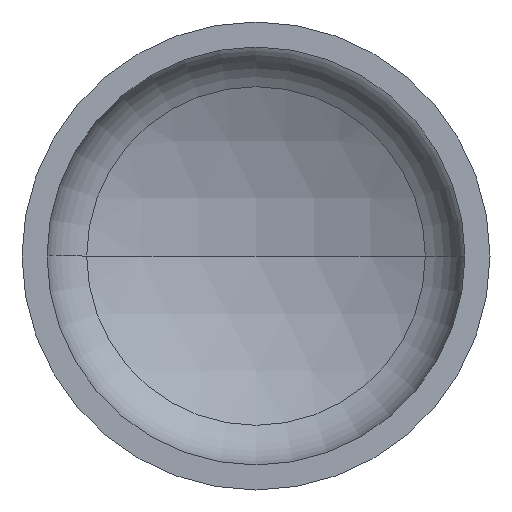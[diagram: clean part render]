
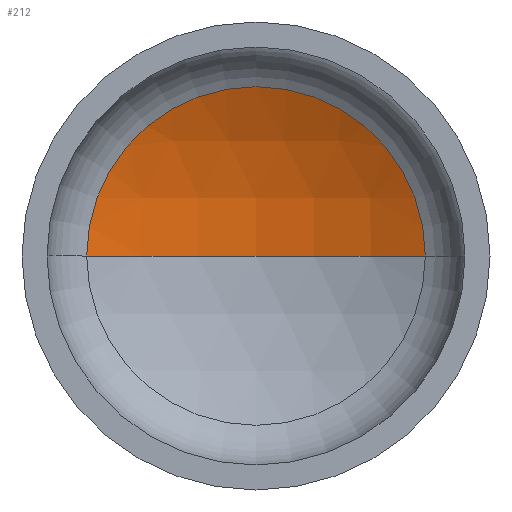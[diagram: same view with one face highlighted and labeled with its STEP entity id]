
A CAD part, front view. The second image highlights one B-rep face of the part: STEP entity #212.
In plain terms, the highlighted spherical face has radius 135 mm.
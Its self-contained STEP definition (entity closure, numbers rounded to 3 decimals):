
#14 = CARTESIAN_POINT ( 'NONE',  ( 0., -67.29, 0. ) ) ;
#15 = DIRECTION ( 'NONE',  ( 0., 0., 1. ) ) ;
#23 = CARTESIAN_POINT ( 'NONE',  ( 0., -67.29, 0. ) ) ;
#25 = ORIENTED_EDGE ( 'NONE', *, *, #138, .T. ) ;
#33 = VERTEX_POINT ( 'NONE', #307 ) ;
#34 = VERTEX_POINT ( 'NONE', #252 ) ;
#35 = ORIENTED_EDGE ( 'NONE', *, *, #142, .F. ) ;
#91 = EDGE_LOOP ( 'NONE', ( #35, #25, #161 ) ) ;
#110 = VERTEX_POINT ( 'NONE', #211 ) ;
#115 = CARTESIAN_POINT ( 'NONE',  ( 0., 53.207, 0. ) ) ;
#132 = EDGE_CURVE ( 'NONE', #110, #33, #353, .T. ) ;
#138 = EDGE_CURVE ( 'NONE', #34, #110, #209, .T. ) ;
#142 = EDGE_CURVE ( 'NONE', #34, #33, #269, .T. ) ;
#161 = ORIENTED_EDGE ( 'NONE', *, *, #132, .T. ) ;
#167 = CARTESIAN_POINT ( 'NONE',  ( 0., -67.29, 0. ) ) ;
#187 = DIRECTION ( 'NONE',  ( -1., 0., 0. ) ) ;
#209 = CIRCLE ( 'NONE', #261, 135. ) ;
#211 = CARTESIAN_POINT ( 'NONE',  ( 60.874, 53.207, 0. ) ) ;
#212 = ADVANCED_FACE ( 'NONE', ( #391 ), #256, .F. ) ;
#219 = DIRECTION ( 'NONE',  ( 0., 0., -1. ) ) ;
#248 = AXIS2_PLACEMENT_3D ( 'NONE', #115, #304, #302 ) ;
#252 = CARTESIAN_POINT ( 'NONE',  ( 0., 67.71, 0. ) ) ;
#256 = SPHERICAL_SURFACE ( 'NONE', #404, 135. ) ;
#261 = AXIS2_PLACEMENT_3D ( 'NONE', #14, #337, #400 ) ;
#269 = CIRCLE ( 'NONE', #281, 135. ) ;
#271 = DIRECTION ( 'NONE',  ( 1., 0., 0. ) ) ;
#281 = AXIS2_PLACEMENT_3D ( 'NONE', #23, #15, #271 ) ;
#302 = DIRECTION ( 'NONE',  ( 1., 0., 0. ) ) ;
#304 = DIRECTION ( 'NONE',  ( 0., -1., 0. ) ) ;
#307 = CARTESIAN_POINT ( 'NONE',  ( -60.874, 53.207, 0. ) ) ;
#337 = DIRECTION ( 'NONE',  ( 0., 0., -1. ) ) ;
#353 = CIRCLE ( 'NONE', #248, 60.874 ) ;
#391 = FACE_OUTER_BOUND ( 'NONE', #91, .T. ) ;
#400 = DIRECTION ( 'NONE',  ( -1., 0., 0. ) ) ;
#404 = AXIS2_PLACEMENT_3D ( 'NONE', #167, #219, #187 ) ;
